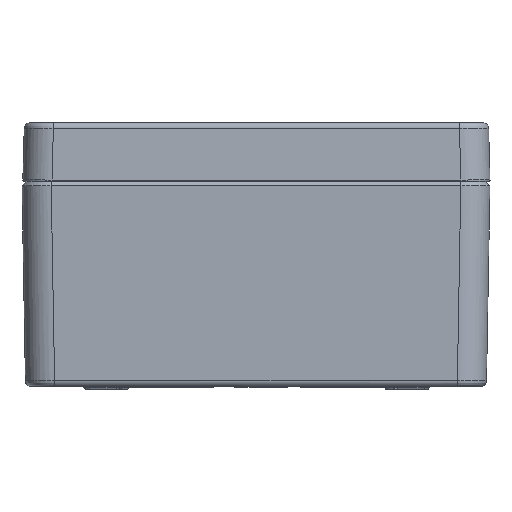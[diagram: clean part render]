
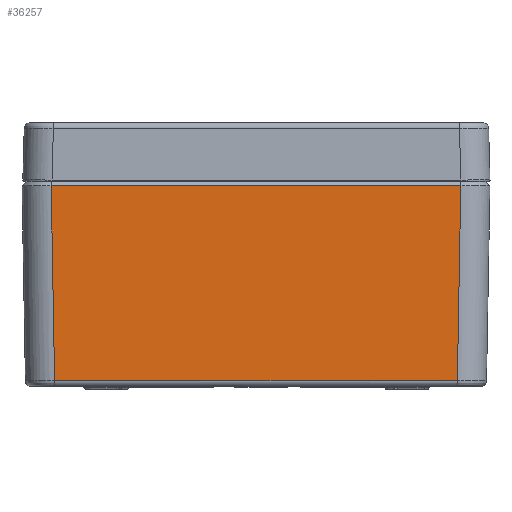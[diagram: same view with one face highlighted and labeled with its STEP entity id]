
A CAD part, left-side view. The second image highlights one B-rep face of the part: STEP entity #36257.
In plain terms, the highlighted planar face has unit normal (-1, 0, -0.018).
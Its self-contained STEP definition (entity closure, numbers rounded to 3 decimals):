
#2937 = CARTESIAN_POINT ( 'NONE',  ( -134.378, 336.532, 239.68 ) ) ;
#4414 = EDGE_LOOP ( 'NONE', ( #37277, #37478, #23772, #47495 ) ) ;
#5411 = DIRECTION ( 'NONE',  ( 0., 1., 0. ) ) ;
#5479 = LINE ( 'NONE', #57485, #41110 ) ;
#6034 = CARTESIAN_POINT ( 'NONE',  ( -129.004, 69.105, -68.235 ) ) ;
#9136 = VECTOR ( 'NONE', #66745, 1000. ) ;
#13068 = CARTESIAN_POINT ( 'NONE',  ( -128.945, 69.047, -71.577 ) ) ;
#13899 = FACE_OUTER_BOUND ( 'NONE', #4414, .T. ) ;
#17051 = EDGE_CURVE ( 'NONE', #54004, #23784, #35372, .T. ) ;
#21249 = EDGE_CURVE ( 'NONE', #69853, #54004, #68779, .T. ) ;
#21665 = DIRECTION ( 'NONE',  ( 0.017, 0.017, -1. ) ) ;
#23772 = ORIENTED_EDGE ( 'NONE', *, *, #17051, .F. ) ;
#23784 = VERTEX_POINT ( 'NONE', #74377 ) ;
#30566 = EDGE_CURVE ( 'NONE', #50397, #23784, #58299, .T. ) ;
#32708 = CARTESIAN_POINT ( 'NONE',  ( -129.004, 76.006, -68.235 ) ) ;
#34699 = CARTESIAN_POINT ( 'NONE',  ( -130.169, -70.071, -1.474 ) ) ;
#35372 = LINE ( 'NONE', #13068, #9136 ) ;
#35784 = EDGE_CURVE ( 'NONE', #50397, #69853, #5479, .T. ) ;
#36257 = ADVANCED_FACE ( 'NONE', ( #13899 ), #62865, .T. ) ;
#37277 = ORIENTED_EDGE ( 'NONE', *, *, #35784, .F. ) ;
#37478 = ORIENTED_EDGE ( 'NONE', *, *, #30566, .T. ) ;
#41110 = VECTOR ( 'NONE', #21665, 1000. ) ;
#42410 = VECTOR ( 'NONE', #5411, 1000. ) ;
#47495 = ORIENTED_EDGE ( 'NONE', *, *, #21249, .F. ) ;
#49713 = DIRECTION ( 'NONE',  ( 0., 1., 0. ) ) ;
#50397 = VERTEX_POINT ( 'NONE', #34699 ) ;
#54004 = VERTEX_POINT ( 'NONE', #6034 ) ;
#57181 = AXIS2_PLACEMENT_3D ( 'NONE', #2937, #63123, #63370 ) ;
#57485 = CARTESIAN_POINT ( 'NONE',  ( -128.945, -68.847, -71.577 ) ) ;
#58299 = LINE ( 'NONE', #70608, #42410 ) ;
#62865 = PLANE ( 'NONE',  #57181 ) ;
#63123 = DIRECTION ( 'NONE',  ( -1., 0., -0.017 ) ) ;
#63370 = DIRECTION ( 'NONE',  ( -0.017, 0., 1. ) ) ;
#66152 = CARTESIAN_POINT ( 'NONE',  ( -129.004, -68.905, -68.235 ) ) ;
#66745 = DIRECTION ( 'NONE',  ( -0.017, 0.017, 1. ) ) ;
#68779 = LINE ( 'NONE', #32708, #73403 ) ;
#69853 = VERTEX_POINT ( 'NONE', #66152 ) ;
#70608 = CARTESIAN_POINT ( 'NONE',  ( -130.169, 336.532, -1.474 ) ) ;
#73403 = VECTOR ( 'NONE', #49713, 1000. ) ;
#74377 = CARTESIAN_POINT ( 'NONE',  ( -130.169, 70.271, -1.474 ) ) ;
